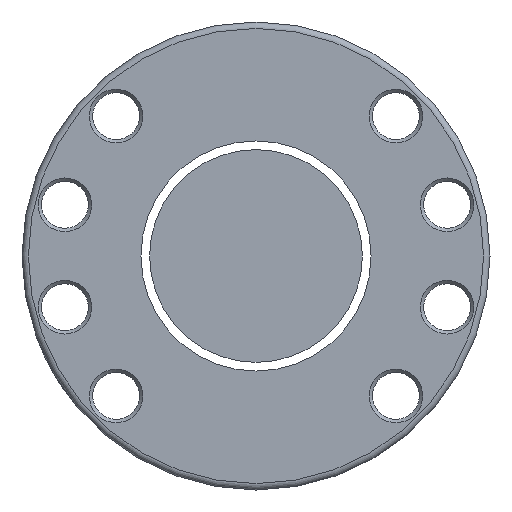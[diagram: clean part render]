
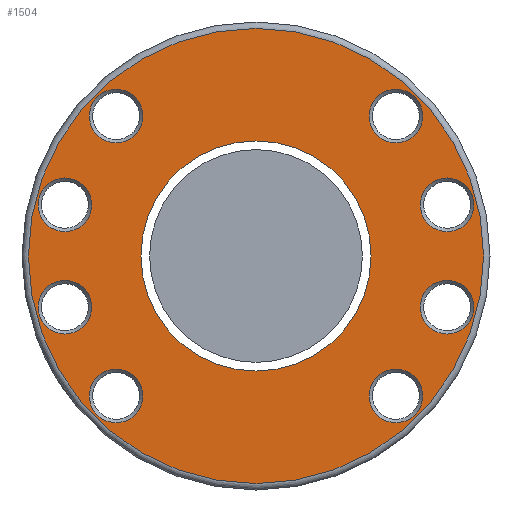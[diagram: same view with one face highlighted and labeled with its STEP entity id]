
A CAD part, left-side view. The second image highlights one B-rep face of the part: STEP entity #1504.
In plain terms, the highlighted planar face has unit normal (-1, 0, 0).
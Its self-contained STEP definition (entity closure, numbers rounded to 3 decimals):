
#3 = EDGE_CURVE ( 'NONE', #2659, #2659, #1285, .T. ) ;
#105 = VERTEX_POINT ( 'NONE', #1910 ) ;
#130 = FACE_BOUND ( 'NONE', #1581, .T. ) ;
#143 = PLANE ( 'NONE',  #1199 ) ;
#151 = EDGE_LOOP ( 'NONE', ( #2142 ) ) ;
#156 = CARTESIAN_POINT ( 'NONE',  ( -148., -44.916, -12.035 ) ) ;
#180 = DIRECTION ( 'NONE',  ( 1., 0., 0. ) ) ;
#245 = DIRECTION ( 'NONE',  ( 1., 0., 0. ) ) ;
#289 = ORIENTED_EDGE ( 'NONE', *, *, #370, .T. ) ;
#308 = CIRCLE ( 'NONE', #2613, 6.3 ) ;
#326 = VERTEX_POINT ( 'NONE', #1684 ) ;
#366 = VERTEX_POINT ( 'NONE', #796 ) ;
#367 = EDGE_LOOP ( 'NONE', ( #289 ) ) ;
#370 = EDGE_CURVE ( 'NONE', #366, #366, #2894, .T. ) ;
#373 = DIRECTION ( 'NONE',  ( 0., -1., 0. ) ) ;
#380 = EDGE_CURVE ( 'NONE', #1699, #1699, #1671, .T. ) ;
#390 = DIRECTION ( 'NONE',  ( -1., 0., 0. ) ) ;
#423 = EDGE_CURVE ( 'NONE', #947, #947, #1051, .T. ) ;
#446 = EDGE_LOOP ( 'NONE', ( #2829 ) ) ;
#486 = CIRCLE ( 'NONE', #1863, 27.05 ) ;
#588 = VERTEX_POINT ( 'NONE', #1489 ) ;
#590 = DIRECTION ( 'NONE',  ( 1., 0., 0. ) ) ;
#625 = CIRCLE ( 'NONE', #2611, 6.3 ) ;
#629 = CARTESIAN_POINT ( 'NONE',  ( -148., 38.616, 12.035 ) ) ;
#650 = DIRECTION ( 'NONE',  ( 0., -1., 0. ) ) ;
#695 = EDGE_LOOP ( 'NONE', ( #2100 ) ) ;
#773 = CARTESIAN_POINT ( 'NONE',  ( -148., 44.916, -12.035 ) ) ;
#796 = CARTESIAN_POINT ( 'NONE',  ( -148., -53.5, 0. ) ) ;
#808 = DIRECTION ( 'NONE',  ( 0., -1., 0. ) ) ;
#814 = AXIS2_PLACEMENT_3D ( 'NONE', #2586, #1976, #1701 ) ;
#834 = FACE_BOUND ( 'NONE', #1400, .T. ) ;
#858 = FACE_BOUND ( 'NONE', #151, .T. ) ;
#862 = CIRCLE ( 'NONE', #1480, 6.3 ) ;
#870 = ORIENTED_EDGE ( 'NONE', *, *, #1787, .T. ) ;
#947 = VERTEX_POINT ( 'NONE', #2610 ) ;
#983 = DIRECTION ( 'NONE',  ( 0., -1., 0. ) ) ;
#1003 = ORIENTED_EDGE ( 'NONE', *, *, #423, .T. ) ;
#1006 = CARTESIAN_POINT ( 'NONE',  ( -148., -39.18, -32.88 ) ) ;
#1051 = CIRCLE ( 'NONE', #1391, 6.3 ) ;
#1053 = DIRECTION ( 'NONE',  ( 1., 0., 0. ) ) ;
#1075 = EDGE_CURVE ( 'NONE', #105, #105, #486, .T. ) ;
#1080 = CARTESIAN_POINT ( 'NONE',  ( -148., 32.88, -32.88 ) ) ;
#1096 = ORIENTED_EDGE ( 'NONE', *, *, #1728, .T. ) ;
#1189 = EDGE_LOOP ( 'NONE', ( #2378 ) ) ;
#1199 = AXIS2_PLACEMENT_3D ( 'NONE', #2623, #390, #2428 ) ;
#1257 = DIRECTION ( 'NONE',  ( 0., -1., 0. ) ) ;
#1279 = FACE_BOUND ( 'NONE', #1706, .T. ) ;
#1285 = CIRCLE ( 'NONE', #1668, 6.3 ) ;
#1298 = DIRECTION ( 'NONE',  ( 1., 0., 0. ) ) ;
#1338 = AXIS2_PLACEMENT_3D ( 'NONE', #2266, #245, #650 ) ;
#1391 = AXIS2_PLACEMENT_3D ( 'NONE', #1490, #1298, #2379 ) ;
#1400 = EDGE_LOOP ( 'NONE', ( #870 ) ) ;
#1465 = VERTEX_POINT ( 'NONE', #2362 ) ;
#1472 = DIRECTION ( 'NONE',  ( 1., 0., 0. ) ) ;
#1480 = AXIS2_PLACEMENT_3D ( 'NONE', #1080, #1053, #1958 ) ;
#1489 = CARTESIAN_POINT ( 'NONE',  ( -148., -51.216, -12.035 ) ) ;
#1490 = CARTESIAN_POINT ( 'NONE',  ( -148., -32.88, 32.88 ) ) ;
#1500 = EDGE_CURVE ( 'NONE', #588, #588, #1716, .T. ) ;
#1504 = ADVANCED_FACE ( 'NONE', ( #2888, #130, #834, #1934, #858, #2637, #1279, #1962, #2168, #2413 ), #143, .T. ) ;
#1541 = VERTEX_POINT ( 'NONE', #2432 ) ;
#1581 = EDGE_LOOP ( 'NONE', ( #2764 ) ) ;
#1663 = EDGE_CURVE ( 'NONE', #326, #326, #2706, .T. ) ;
#1666 = EDGE_LOOP ( 'NONE', ( #1096 ) ) ;
#1668 = AXIS2_PLACEMENT_3D ( 'NONE', #1985, #2445, #2019 ) ;
#1671 = CIRCLE ( 'NONE', #2703, 6.3 ) ;
#1684 = CARTESIAN_POINT ( 'NONE',  ( -148., -51.216, 12.035 ) ) ;
#1699 = VERTEX_POINT ( 'NONE', #1006 ) ;
#1701 = DIRECTION ( 'NONE',  ( 0., -1., 0. ) ) ;
#1706 = EDGE_LOOP ( 'NONE', ( #1003 ) ) ;
#1716 = CIRCLE ( 'NONE', #2467, 6.3 ) ;
#1725 = DIRECTION ( 'NONE',  ( 1., 0., 0. ) ) ;
#1728 = EDGE_CURVE ( 'NONE', #1465, #1465, #625, .T. ) ;
#1760 = EDGE_LOOP ( 'NONE', ( #2109 ) ) ;
#1787 = EDGE_CURVE ( 'NONE', #2640, #2640, #862, .T. ) ;
#1863 = AXIS2_PLACEMENT_3D ( 'NONE', #1957, #1472, #2602 ) ;
#1910 = CARTESIAN_POINT ( 'NONE',  ( -148., 27.05, 0. ) ) ;
#1934 = FACE_BOUND ( 'NONE', #695, .T. ) ;
#1957 = CARTESIAN_POINT ( 'NONE',  ( -148., 0., 0. ) ) ;
#1958 = DIRECTION ( 'NONE',  ( 0., -1., 0. ) ) ;
#1962 = FACE_BOUND ( 'NONE', #1666, .T. ) ;
#1976 = DIRECTION ( 'NONE',  ( -1., 0., 0. ) ) ;
#1985 = CARTESIAN_POINT ( 'NONE',  ( -148., 44.916, 12.035 ) ) ;
#2019 = DIRECTION ( 'NONE',  ( 0., -1., 0. ) ) ;
#2100 = ORIENTED_EDGE ( 'NONE', *, *, #380, .T. ) ;
#2109 = ORIENTED_EDGE ( 'NONE', *, *, #1663, .T. ) ;
#2142 = ORIENTED_EDGE ( 'NONE', *, *, #1500, .T. ) ;
#2153 = CARTESIAN_POINT ( 'NONE',  ( -148., 32.88, 32.88 ) ) ;
#2168 = FACE_BOUND ( 'NONE', #1189, .T. ) ;
#2256 = EDGE_CURVE ( 'NONE', #1541, #1541, #308, .T. ) ;
#2266 = CARTESIAN_POINT ( 'NONE',  ( -148., -44.916, 12.035 ) ) ;
#2362 = CARTESIAN_POINT ( 'NONE',  ( -148., 26.58, 32.88 ) ) ;
#2378 = ORIENTED_EDGE ( 'NONE', *, *, #3, .T. ) ;
#2379 = DIRECTION ( 'NONE',  ( 0., -1., 0. ) ) ;
#2413 = FACE_BOUND ( 'NONE', #446, .T. ) ;
#2428 = DIRECTION ( 'NONE',  ( 0., -1., 0. ) ) ;
#2432 = CARTESIAN_POINT ( 'NONE',  ( -148., 38.616, -12.035 ) ) ;
#2445 = DIRECTION ( 'NONE',  ( 1., 0., 0. ) ) ;
#2467 = AXIS2_PLACEMENT_3D ( 'NONE', #156, #1725, #808 ) ;
#2586 = CARTESIAN_POINT ( 'NONE',  ( -148., 0., 0. ) ) ;
#2602 = DIRECTION ( 'NONE',  ( 0., 1., 0. ) ) ;
#2610 = CARTESIAN_POINT ( 'NONE',  ( -148., -39.18, 32.88 ) ) ;
#2611 = AXIS2_PLACEMENT_3D ( 'NONE', #2153, #180, #373 ) ;
#2613 = AXIS2_PLACEMENT_3D ( 'NONE', #773, #2819, #983 ) ;
#2623 = CARTESIAN_POINT ( 'NONE',  ( -148., 55., 0. ) ) ;
#2625 = CARTESIAN_POINT ( 'NONE',  ( -148., 26.58, -32.88 ) ) ;
#2637 = FACE_BOUND ( 'NONE', #1760, .T. ) ;
#2640 = VERTEX_POINT ( 'NONE', #2625 ) ;
#2659 = VERTEX_POINT ( 'NONE', #629 ) ;
#2703 = AXIS2_PLACEMENT_3D ( 'NONE', #2830, #590, #1257 ) ;
#2706 = CIRCLE ( 'NONE', #1338, 6.3 ) ;
#2764 = ORIENTED_EDGE ( 'NONE', *, *, #2256, .T. ) ;
#2819 = DIRECTION ( 'NONE',  ( 1., 0., 0. ) ) ;
#2829 = ORIENTED_EDGE ( 'NONE', *, *, #1075, .T. ) ;
#2830 = CARTESIAN_POINT ( 'NONE',  ( -148., -32.88, -32.88 ) ) ;
#2888 = FACE_OUTER_BOUND ( 'NONE', #367, .T. ) ;
#2894 = CIRCLE ( 'NONE', #814, 53.5 ) ;
